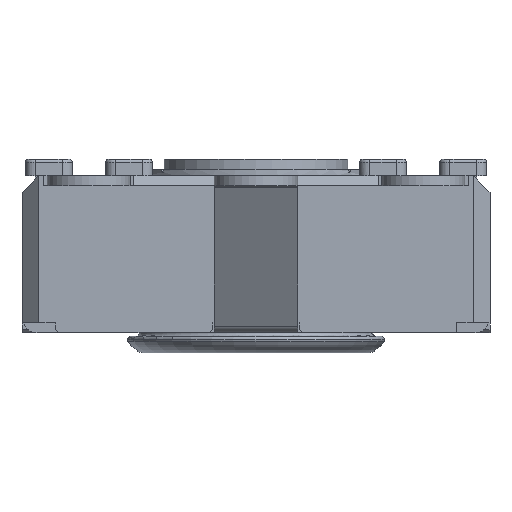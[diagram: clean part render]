
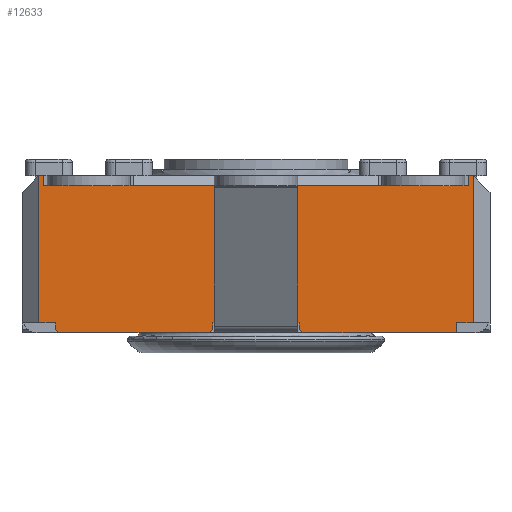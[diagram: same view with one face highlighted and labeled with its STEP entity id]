
A CAD part, front view. The second image highlights one B-rep face of the part: STEP entity #12633.
In plain terms, the highlighted planar face has unit normal (0, -1, 0).
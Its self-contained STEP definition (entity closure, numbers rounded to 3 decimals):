
#989=FACE_OUTER_BOUND('',#1658,.T.);
#1658=EDGE_LOOP('',(#9867,#9868,#9869,#9870,#9871,#9872,#9873,#9874,#9875,
#9876,#9877,#9878,#9879,#9880,#9881,#9882,#9883,#9884,#9885,#9886,#9887,
#9888,#9889,#9890,#9891,#9892,#9893));
#2060=LINE('',#17698,#3496);
#2131=LINE('',#17893,#3567);
#2132=LINE('',#17895,#3568);
#2133=LINE('',#17898,#3569);
#2138=LINE('',#17908,#3574);
#2200=LINE('',#18039,#3636);
#2207=LINE('',#18056,#3643);
#2336=LINE('',#18460,#3772);
#2351=LINE('',#18489,#3787);
#2419=LINE('',#18641,#3855);
#2427=LINE('',#18654,#3863);
#2545=LINE('',#19128,#3981);
#2752=LINE('',#19652,#4188);
#2757=LINE('',#19661,#4193);
#2760=LINE('',#19666,#4196);
#2848=LINE('',#19944,#4284);
#2856=LINE('',#19962,#4292);
#2862=LINE('',#19970,#4298);
#2863=LINE('',#19973,#4299);
#2864=LINE('',#19975,#4300);
#2865=LINE('',#19977,#4301);
#2866=LINE('',#19978,#4302);
#2867=LINE('',#19979,#4303);
#2868=LINE('',#19980,#4304);
#2869=LINE('',#19981,#4305);
#2870=LINE('',#19982,#4306);
#2871=LINE('',#19983,#4307);
#3496=VECTOR('',#14176,10.);
#3567=VECTOR('',#14337,10.);
#3568=VECTOR('',#14340,10.);
#3569=VECTOR('',#14343,10.);
#3574=VECTOR('',#14348,10.);
#3636=VECTOR('',#14460,10.);
#3643=VECTOR('',#14473,10.);
#3772=VECTOR('',#14898,10.);
#3787=VECTOR('',#14927,10.);
#3855=VECTOR('',#15077,10.);
#3863=VECTOR('',#15087,10.);
#3981=VECTOR('',#15347,10.);
#4188=VECTOR('',#15696,10.);
#4193=VECTOR('',#15701,10.);
#4196=VECTOR('',#15706,10.);
#4284=VECTOR('',#15932,10.);
#4292=VECTOR('',#15944,10.);
#4298=VECTOR('',#15954,10.);
#4299=VECTOR('',#15957,10.);
#4300=VECTOR('',#15958,10.);
#4301=VECTOR('',#15959,10.);
#4302=VECTOR('',#15960,10.);
#4303=VECTOR('',#15961,10.);
#4304=VECTOR('',#15962,10.);
#4305=VECTOR('',#15963,10.);
#4306=VECTOR('',#15964,10.);
#4307=VECTOR('',#15965,10.);
#4883=VERTEX_POINT('',#17573);
#4935=VERTEX_POINT('',#17697);
#4963=VERTEX_POINT('',#17773);
#4986=VERTEX_POINT('',#17823);
#5010=VERTEX_POINT('',#17879);
#5012=VERTEX_POINT('',#17885);
#5015=VERTEX_POINT('',#17897);
#5019=VERTEX_POINT('',#17905);
#5020=VERTEX_POINT('',#17907);
#5064=VERTEX_POINT('',#18037);
#5071=VERTEX_POINT('',#18055);
#5197=VERTEX_POINT('',#18457);
#5198=VERTEX_POINT('',#18459);
#5204=VERTEX_POINT('',#18486);
#5205=VERTEX_POINT('',#18488);
#5248=VERTEX_POINT('',#18640);
#5252=VERTEX_POINT('',#18652);
#5380=VERTEX_POINT('',#19124);
#5531=VERTEX_POINT('',#19651);
#5535=VERTEX_POINT('',#19659);
#5588=VERTEX_POINT('',#19942);
#5589=VERTEX_POINT('',#19943);
#5596=VERTEX_POINT('',#19960);
#5597=VERTEX_POINT('',#19961);
#5598=VERTEX_POINT('',#19972);
#5599=VERTEX_POINT('',#19974);
#5600=VERTEX_POINT('',#19976);
#6153=EDGE_CURVE('',#4935,#4883,#2060,.T.);
#6250=EDGE_CURVE('',#5010,#4963,#2131,.T.);
#6251=EDGE_CURVE('',#5012,#4986,#2132,.T.);
#6252=EDGE_CURVE('',#5015,#4935,#2133,.T.);
#6257=EDGE_CURVE('',#5020,#5019,#2138,.T.);
#6324=EDGE_CURVE('',#4963,#5064,#2200,.T.);
#6332=EDGE_CURVE('',#5071,#5010,#2207,.T.);
#6535=EDGE_CURVE('',#5198,#5197,#2336,.T.);
#6550=EDGE_CURVE('',#5205,#5204,#2351,.T.);
#6627=EDGE_CURVE('',#5248,#5012,#2419,.T.);
#6635=EDGE_CURVE('',#4986,#5252,#2427,.T.);
#6802=EDGE_CURVE('',#5205,#5380,#2545,.T.);
#7030=EDGE_CURVE('',#5531,#5380,#2752,.T.);
#7035=EDGE_CURVE('',#4883,#5535,#2757,.T.);
#7038=EDGE_CURVE('',#5020,#5197,#2760,.T.);
#7145=EDGE_CURVE('',#5588,#5589,#2848,.T.);
#7153=EDGE_CURVE('',#5596,#5597,#2856,.T.);
#7159=EDGE_CURVE('',#5015,#5588,#2862,.T.);
#7160=EDGE_CURVE('',#5535,#5598,#2863,.T.);
#7161=EDGE_CURVE('',#5599,#5598,#2864,.T.);
#7162=EDGE_CURVE('',#5599,#5600,#2865,.T.);
#7163=EDGE_CURVE('',#5600,#5531,#2866,.T.);
#7164=EDGE_CURVE('',#5204,#5248,#2867,.T.);
#7165=EDGE_CURVE('',#5071,#5252,#2868,.T.);
#7166=EDGE_CURVE('',#5064,#5198,#2869,.T.);
#7167=EDGE_CURVE('',#5019,#5597,#2870,.T.);
#7168=EDGE_CURVE('',#5596,#5589,#2871,.T.);
#9867=ORIENTED_EDGE('',*,*,#7145,.F.);
#9868=ORIENTED_EDGE('',*,*,#7159,.F.);
#9869=ORIENTED_EDGE('',*,*,#6252,.T.);
#9870=ORIENTED_EDGE('',*,*,#6153,.T.);
#9871=ORIENTED_EDGE('',*,*,#7035,.T.);
#9872=ORIENTED_EDGE('',*,*,#7160,.T.);
#9873=ORIENTED_EDGE('',*,*,#7161,.F.);
#9874=ORIENTED_EDGE('',*,*,#7162,.T.);
#9875=ORIENTED_EDGE('',*,*,#7163,.T.);
#9876=ORIENTED_EDGE('',*,*,#7030,.T.);
#9877=ORIENTED_EDGE('',*,*,#6802,.F.);
#9878=ORIENTED_EDGE('',*,*,#6550,.T.);
#9879=ORIENTED_EDGE('',*,*,#7164,.T.);
#9880=ORIENTED_EDGE('',*,*,#6627,.T.);
#9881=ORIENTED_EDGE('',*,*,#6251,.T.);
#9882=ORIENTED_EDGE('',*,*,#6635,.T.);
#9883=ORIENTED_EDGE('',*,*,#7165,.F.);
#9884=ORIENTED_EDGE('',*,*,#6332,.T.);
#9885=ORIENTED_EDGE('',*,*,#6250,.T.);
#9886=ORIENTED_EDGE('',*,*,#6324,.T.);
#9887=ORIENTED_EDGE('',*,*,#7166,.T.);
#9888=ORIENTED_EDGE('',*,*,#6535,.T.);
#9889=ORIENTED_EDGE('',*,*,#7038,.F.);
#9890=ORIENTED_EDGE('',*,*,#6257,.T.);
#9891=ORIENTED_EDGE('',*,*,#7167,.T.);
#9892=ORIENTED_EDGE('',*,*,#7153,.F.);
#9893=ORIENTED_EDGE('',*,*,#7168,.T.);
#11849=PLANE('',#13498);
#12633=ADVANCED_FACE('',(#989),#11849,.T.);
#13498=AXIS2_PLACEMENT_3D('',#19971,#15955,#15956);
#14176=DIRECTION('',(1.,0.,0.));
#14337=DIRECTION('',(-1.,0.,0.));
#14340=DIRECTION('',(-1.,0.,0.));
#14343=DIRECTION('',(1.,0.,0.));
#14348=DIRECTION('',(1.,0.,0.));
#14460=DIRECTION('',(-1.,0.,0.));
#14473=DIRECTION('',(-1.,0.,0.));
#14898=DIRECTION('',(-1.,0.,0.));
#14927=DIRECTION('',(-1.,0.,0.));
#15077=DIRECTION('',(-1.,0.,0.));
#15087=DIRECTION('',(-1.,0.,0.));
#15347=DIRECTION('',(0.,0.,-1.));
#15696=DIRECTION('',(1.,0.,0.));
#15701=DIRECTION('',(1.,0.,0.));
#15706=DIRECTION('',(0.,0.,1.));
#15932=DIRECTION('',(-0.707,0.,-0.707));
#15944=DIRECTION('',(-0.707,0.,0.707));
#15954=DIRECTION('',(0.,0.,-1.));
#15955=DIRECTION('center_axis',(0.,-1.,0.));
#15956=DIRECTION('ref_axis',(0.,0.,-1.));
#15957=DIRECTION('',(0.,0.,-1.));
#15958=DIRECTION('',(-0.707,0.,0.707));
#15959=DIRECTION('',(1.,0.,0.));
#15960=DIRECTION('',(0.,0.,1.));
#15961=DIRECTION('',(0.,0.,-1.));
#15962=DIRECTION('',(1.,0.,0.));
#15963=DIRECTION('',(0.,0.,1.));
#15964=DIRECTION('',(0.,0.,-1.));
#15965=DIRECTION('',(1.,0.,0.));
#17573=CARTESIAN_POINT('',(-6.217,-9.898,0.));
#17697=CARTESIAN_POINT('',(-8.717,-9.898,0.));
#17698=CARTESIAN_POINT('',(-14.467,-9.898,0.));
#17773=CARTESIAN_POINT('',(-13.717,-9.898,4.1));
#17823=CARTESIAN_POINT('',(-3.717,-9.898,4.1));
#17879=CARTESIAN_POINT('',(-11.217,-9.898,4.1));
#17885=CARTESIAN_POINT('',(-1.217,-9.898,4.1));
#17893=CARTESIAN_POINT('',(-3.944,-9.898,4.1));
#17895=CARTESIAN_POINT('',(-1.862,-9.898,4.1));
#17897=CARTESIAN_POINT('',(-8.767,-9.898,0.));
#17898=CARTESIAN_POINT('',(-14.467,-9.898,0.));
#17905=CARTESIAN_POINT('',(-13.467,-9.898,0.));
#17907=CARTESIAN_POINT('',(-13.967,-9.898,0.));
#17908=CARTESIAN_POINT('',(-7.245,-9.898,0.));
#18037=CARTESIAN_POINT('',(-13.817,-9.898,4.1));
#18039=CARTESIAN_POINT('',(-3.944,-9.898,4.1));
#18055=CARTESIAN_POINT('',(-11.117,-9.898,4.1));
#18056=CARTESIAN_POINT('',(-3.944,-9.898,4.1));
#18457=CARTESIAN_POINT('',(-13.967,-9.898,4.4));
#18459=CARTESIAN_POINT('',(-13.817,-9.898,4.4));
#18460=CARTESIAN_POINT('',(-14.467,-9.898,4.4));
#18486=CARTESIAN_POINT('',(-1.117,-9.898,4.4));
#18488=CARTESIAN_POINT('',(-0.967,-9.898,4.4));
#18489=CARTESIAN_POINT('',(-14.467,-9.898,4.4));
#18640=CARTESIAN_POINT('',(-1.117,-9.898,4.1));
#18641=CARTESIAN_POINT('',(-1.862,-9.898,4.1));
#18652=CARTESIAN_POINT('',(-3.817,-9.898,4.1));
#18654=CARTESIAN_POINT('',(-1.862,-9.898,4.1));
#19124=CARTESIAN_POINT('',(-0.967,-9.898,0.));
#19128=CARTESIAN_POINT('',(-0.967,-9.898,0.));
#19651=CARTESIAN_POINT('',(-1.467,-9.898,0.));
#19652=CARTESIAN_POINT('',(-0.646,-9.898,0.));
#19659=CARTESIAN_POINT('',(-6.167,-9.898,0.));
#19661=CARTESIAN_POINT('',(-14.467,-9.898,0.));
#19666=CARTESIAN_POINT('',(-13.967,-9.898,0.));
#19942=CARTESIAN_POINT('',(-8.767,-9.898,-0.2));
#19943=CARTESIAN_POINT('',(-8.867,-9.898,-0.3));
#19944=CARTESIAN_POINT('',(-6.667,-9.898,1.9));
#19960=CARTESIAN_POINT('',(-13.367,-9.898,-0.3));
#19961=CARTESIAN_POINT('',(-13.467,-9.898,-0.2));
#19962=CARTESIAN_POINT('',(-10.242,-9.898,-3.425));
#19970=CARTESIAN_POINT('',(-8.767,-9.898,0.));
#19971=CARTESIAN_POINT('Origin',(-0.467,-9.898,0.));
#19972=CARTESIAN_POINT('',(-6.167,-9.898,-0.2));
#19973=CARTESIAN_POINT('',(-6.167,-9.898,0.));
#19974=CARTESIAN_POINT('',(-6.067,-9.898,-0.3));
#19975=CARTESIAN_POINT('',(-4.767,-9.898,-1.6));
#19976=CARTESIAN_POINT('',(-1.467,-9.898,-0.3));
#19977=CARTESIAN_POINT('',(-0.467,-9.898,-0.3));
#19978=CARTESIAN_POINT('',(-1.467,-9.898,-0.15));
#19979=CARTESIAN_POINT('',(-1.117,-9.898,2.2));
#19980=CARTESIAN_POINT('',(-3.967,-9.898,4.1));
#19981=CARTESIAN_POINT('',(-13.817,-9.898,2.2));
#19982=CARTESIAN_POINT('',(-13.467,-9.898,-0.15));
#19983=CARTESIAN_POINT('',(-0.467,-9.898,-0.3));
